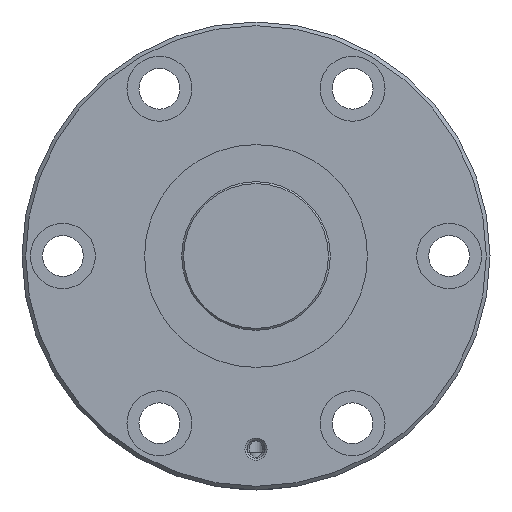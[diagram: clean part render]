
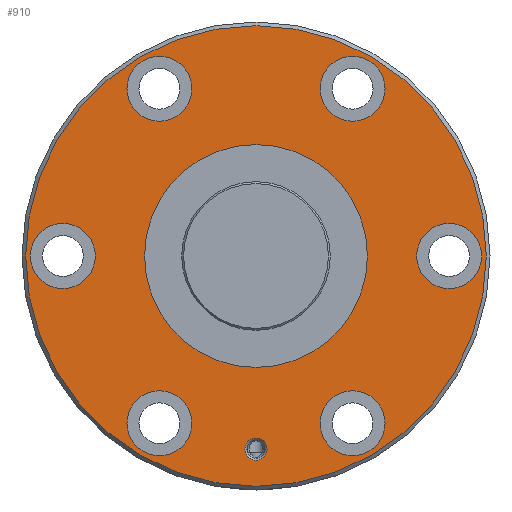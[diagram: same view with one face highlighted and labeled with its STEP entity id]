
A CAD part, left-side view. The second image highlights one B-rep face of the part: STEP entity #910.
In plain terms, the highlighted planar face has unit normal (-1, 0, 0).
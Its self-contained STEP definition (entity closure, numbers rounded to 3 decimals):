
#93=PLANE('',#1019);
#149=ORIENTED_EDGE('',*,*,#341,.T.);
#150=ORIENTED_EDGE('',*,*,#342,.T.);
#151=ORIENTED_EDGE('',*,*,#343,.T.);
#152=ORIENTED_EDGE('',*,*,#344,.T.);
#153=ORIENTED_EDGE('',*,*,#345,.T.);
#154=ORIENTED_EDGE('',*,*,#346,.T.);
#155=ORIENTED_EDGE('',*,*,#347,.T.);
#156=ORIENTED_EDGE('',*,*,#348,.T.);
#157=ORIENTED_EDGE('',*,*,#340,.F.);
#340=EDGE_CURVE('',#441,#441,#525,.T.);
#341=EDGE_CURVE('',#442,#442,#526,.T.);
#342=EDGE_CURVE('',#443,#443,#527,.F.);
#343=EDGE_CURVE('',#444,#444,#528,.T.);
#344=EDGE_CURVE('',#445,#445,#529,.T.);
#345=EDGE_CURVE('',#446,#446,#530,.T.);
#346=EDGE_CURVE('',#447,#447,#531,.T.);
#347=EDGE_CURVE('',#448,#448,#532,.T.);
#348=EDGE_CURVE('',#449,#449,#533,.T.);
#441=VERTEX_POINT('',#1524);
#442=VERTEX_POINT('',#1527);
#443=VERTEX_POINT('',#1529);
#444=VERTEX_POINT('',#1531);
#445=VERTEX_POINT('',#1533);
#446=VERTEX_POINT('',#1535);
#447=VERTEX_POINT('',#1537);
#448=VERTEX_POINT('',#1539);
#449=VERTEX_POINT('',#1541);
#525=CIRCLE('',#1018,62.);
#526=CIRCLE('',#1020,30.);
#527=CIRCLE('',#1021,8.75);
#528=CIRCLE('',#1022,3.);
#529=CIRCLE('',#1023,8.75);
#530=CIRCLE('',#1024,8.75);
#531=CIRCLE('',#1025,8.75);
#532=CIRCLE('',#1026,8.75);
#533=CIRCLE('',#1027,8.75);
#607=EDGE_LOOP('',(#149));
#608=EDGE_LOOP('',(#150));
#609=EDGE_LOOP('',(#151));
#610=EDGE_LOOP('',(#152));
#611=EDGE_LOOP('',(#153));
#612=EDGE_LOOP('',(#154));
#613=EDGE_LOOP('',(#155));
#614=EDGE_LOOP('',(#156));
#615=EDGE_LOOP('',(#157));
#749=FACE_BOUND('',#607,.T.);
#750=FACE_BOUND('',#608,.T.);
#751=FACE_BOUND('',#609,.T.);
#752=FACE_BOUND('',#610,.T.);
#753=FACE_BOUND('',#611,.T.);
#754=FACE_BOUND('',#612,.T.);
#755=FACE_BOUND('',#613,.T.);
#756=FACE_BOUND('',#614,.T.);
#757=FACE_BOUND('',#615,.T.);
#910=ADVANCED_FACE('',(#749,#750,#751,#752,#753,#754,#755,#756,#757),#93,
 .T.);
#1018=AXIS2_PLACEMENT_3D('',#1523,#1190,#1191);
#1019=AXIS2_PLACEMENT_3D('',#1525,#1192,#1193);
#1020=AXIS2_PLACEMENT_3D('',#1526,#1194,#1195);
#1021=AXIS2_PLACEMENT_3D('',#1528,#1196,#1197);
#1022=AXIS2_PLACEMENT_3D('',#1530,#1198,#1199);
#1023=AXIS2_PLACEMENT_3D('',#1532,#1200,#1201);
#1024=AXIS2_PLACEMENT_3D('',#1534,#1202,#1203);
#1025=AXIS2_PLACEMENT_3D('',#1536,#1204,#1205);
#1026=AXIS2_PLACEMENT_3D('',#1538,#1206,#1207);
#1027=AXIS2_PLACEMENT_3D('',#1540,#1208,#1209);
#1190=DIRECTION('',(1.,0.,0.));
#1191=DIRECTION('',(0.,0.,-1.));
#1192=DIRECTION('',(-1.,0.,0.));
#1193=DIRECTION('',(0.,0.,1.));
#1194=DIRECTION('',(1.,0.,0.));
#1195=DIRECTION('',(0.,0.,-1.));
#1196=DIRECTION('',(-1.,0.,0.));
#1197=DIRECTION('',(0.,0.,1.));
#1198=DIRECTION('',(1.,0.,0.));
#1199=DIRECTION('',(0.,0.,-1.));
#1200=DIRECTION('',(1.,0.,0.));
#1201=DIRECTION('',(0.,0.,-1.));
#1202=DIRECTION('',(1.,0.,0.));
#1203=DIRECTION('',(0.,0.,-1.));
#1204=DIRECTION('',(1.,0.,0.));
#1205=DIRECTION('',(0.,0.,-1.));
#1206=DIRECTION('',(1.,0.,0.));
#1207=DIRECTION('',(0.,0.,-1.));
#1208=DIRECTION('',(1.,0.,0.));
#1209=DIRECTION('',(0.,0.,-1.));
#1523=CARTESIAN_POINT('',(0.,0.,0.));
#1524=CARTESIAN_POINT('',(0.,0.,-62.));
#1525=CARTESIAN_POINT('',(0.,62.,0.));
#1526=CARTESIAN_POINT('',(0.,0.,0.));
#1527=CARTESIAN_POINT('',(0.,0.,-30.));
#1528=CARTESIAN_POINT('',(0.,52.,0.));
#1529=CARTESIAN_POINT('',(0.,52.,8.75));
#1530=CARTESIAN_POINT('',(0.,0.,-52.));
#1531=CARTESIAN_POINT('',(0.,0.,-55.));
#1532=CARTESIAN_POINT('',(0.,-52.,0.));
#1533=CARTESIAN_POINT('',(0.,-52.,-8.75));
#1534=CARTESIAN_POINT('',(0.,26.,45.033));
#1535=CARTESIAN_POINT('',(0.,26.,36.283));
#1536=CARTESIAN_POINT('',(0.,-26.,-45.033));
#1537=CARTESIAN_POINT('',(0.,-26.,-53.783));
#1538=CARTESIAN_POINT('',(0.,-26.,45.033));
#1539=CARTESIAN_POINT('',(0.,-26.,36.283));
#1540=CARTESIAN_POINT('',(0.,26.,-45.033));
#1541=CARTESIAN_POINT('',(0.,26.,-53.783));
